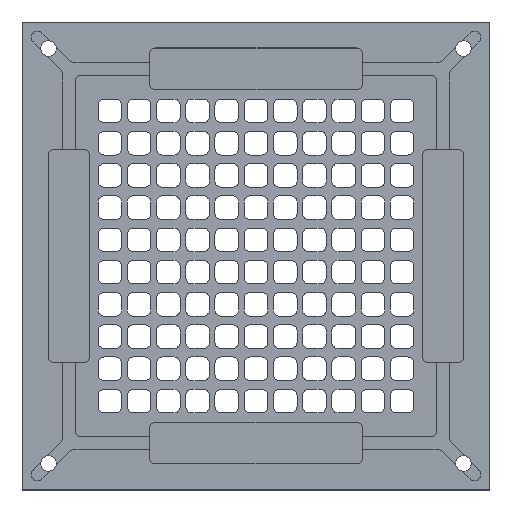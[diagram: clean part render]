
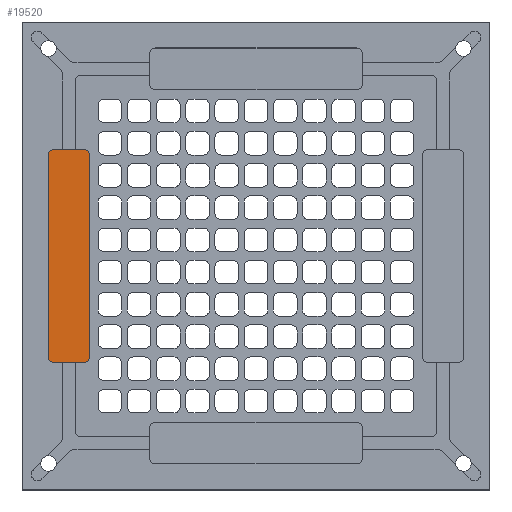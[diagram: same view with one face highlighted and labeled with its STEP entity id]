
A CAD part, top view. The second image highlights one B-rep face of the part: STEP entity #19520.
In plain terms, the highlighted planar face has unit normal (0, 0, 1).
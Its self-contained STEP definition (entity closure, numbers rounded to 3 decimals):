
#360=PLANE('',#21000);
#1093=FACE_OUTER_BOUND('',#2077,.T.);
#2077=EDGE_LOOP('',(#14258,#14259,#14260,#14261,#14262,#14263,#14264,#14265));
#3685=LINE('',#30586,#5669);
#3686=LINE('',#30590,#5670);
#3687=LINE('',#30594,#5671);
#3688=LINE('',#30597,#5672);
#5669=VECTOR('',#24531,10.);
#5670=VECTOR('',#24534,10.);
#5671=VECTOR('',#24537,10.);
#5672=VECTOR('',#24540,10.);
#7387=CIRCLE('',#20998,6.);
#7389=CIRCLE('',#21001,6.);
#7390=CIRCLE('',#21002,6.);
#7391=CIRCLE('',#21003,6.);
#8867=VERTEX_POINT('',#30576);
#8868=VERTEX_POINT('',#30577);
#8871=VERTEX_POINT('',#30585);
#8872=VERTEX_POINT('',#30587);
#8873=VERTEX_POINT('',#30589);
#8874=VERTEX_POINT('',#30591);
#8875=VERTEX_POINT('',#30593);
#8876=VERTEX_POINT('',#30595);
#11068=EDGE_CURVE('',#8867,#8868,#7387,.T.);
#11072=EDGE_CURVE('',#8871,#8868,#3685,.T.);
#11073=EDGE_CURVE('',#8871,#8872,#7389,.T.);
#11074=EDGE_CURVE('',#8873,#8872,#3686,.T.);
#11075=EDGE_CURVE('',#8873,#8874,#7390,.T.);
#11076=EDGE_CURVE('',#8875,#8874,#3687,.T.);
#11077=EDGE_CURVE('',#8875,#8876,#7391,.T.);
#11078=EDGE_CURVE('',#8867,#8876,#3688,.T.);
#14258=ORIENTED_EDGE('',*,*,#11068,.T.);
#14259=ORIENTED_EDGE('',*,*,#11072,.F.);
#14260=ORIENTED_EDGE('',*,*,#11073,.T.);
#14261=ORIENTED_EDGE('',*,*,#11074,.F.);
#14262=ORIENTED_EDGE('',*,*,#11075,.T.);
#14263=ORIENTED_EDGE('',*,*,#11076,.F.);
#14264=ORIENTED_EDGE('',*,*,#11077,.T.);
#14265=ORIENTED_EDGE('',*,*,#11078,.F.);
#19520=ADVANCED_FACE('',(#1093),#360,.F.);
#20998=AXIS2_PLACEMENT_3D('',#30578,#24523,#24524);
#21000=AXIS2_PLACEMENT_3D('',#30584,#24529,#24530);
#21001=AXIS2_PLACEMENT_3D('',#30588,#24532,#24533);
#21002=AXIS2_PLACEMENT_3D('',#30592,#24535,#24536);
#21003=AXIS2_PLACEMENT_3D('',#30596,#24538,#24539);
#24523=DIRECTION('center_axis',(0.,0.,1.));
#24524=DIRECTION('ref_axis',(0.707,-0.707,0.));
#24529=DIRECTION('center_axis',(0.,0.,-1.));
#24530=DIRECTION('ref_axis',(-1.,0.,0.));
#24531=DIRECTION('',(0.,-1.,0.));
#24532=DIRECTION('center_axis',(0.,0.,1.));
#24533=DIRECTION('ref_axis',(0.707,0.707,0.));
#24534=DIRECTION('',(1.,0.,0.));
#24535=DIRECTION('center_axis',(0.,0.,1.));
#24536=DIRECTION('ref_axis',(-0.707,0.707,0.));
#24537=DIRECTION('',(0.,1.,0.));
#24538=DIRECTION('center_axis',(0.,0.,1.));
#24539=DIRECTION('ref_axis',(-0.707,-0.707,0.));
#24540=DIRECTION('',(-1.,0.,0.));
#30576=CARTESIAN_POINT('',(-166.,-102.5,21.));
#30577=CARTESIAN_POINT('',(-160.,-96.5,21.));
#30578=CARTESIAN_POINT('Origin',(-166.,-96.5,21.));
#30584=CARTESIAN_POINT('Origin',(-180.,0.,21.));
#30585=CARTESIAN_POINT('',(-160.,96.5,21.));
#30586=CARTESIAN_POINT('',(-160.,-102.5,21.));
#30587=CARTESIAN_POINT('',(-166.,102.5,21.));
#30588=CARTESIAN_POINT('Origin',(-166.,96.5,21.));
#30589=CARTESIAN_POINT('',(-194.,102.5,21.));
#30590=CARTESIAN_POINT('',(-160.,102.5,21.));
#30591=CARTESIAN_POINT('',(-200.,96.5,21.));
#30592=CARTESIAN_POINT('Origin',(-194.,96.5,21.));
#30593=CARTESIAN_POINT('',(-200.,-96.5,21.));
#30594=CARTESIAN_POINT('',(-200.,102.5,21.));
#30595=CARTESIAN_POINT('',(-194.,-102.5,21.));
#30596=CARTESIAN_POINT('Origin',(-194.,-96.5,21.));
#30597=CARTESIAN_POINT('',(-200.,-102.5,21.));
